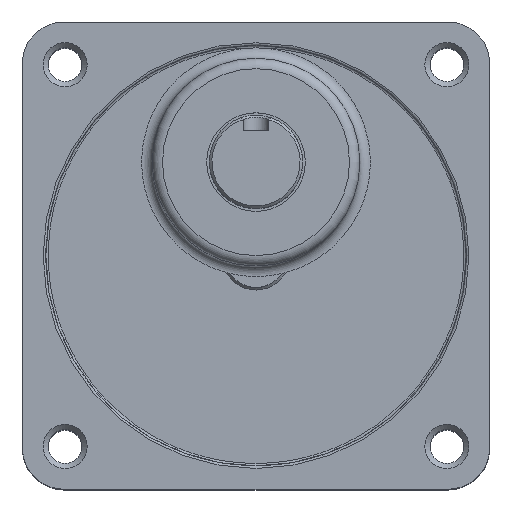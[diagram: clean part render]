
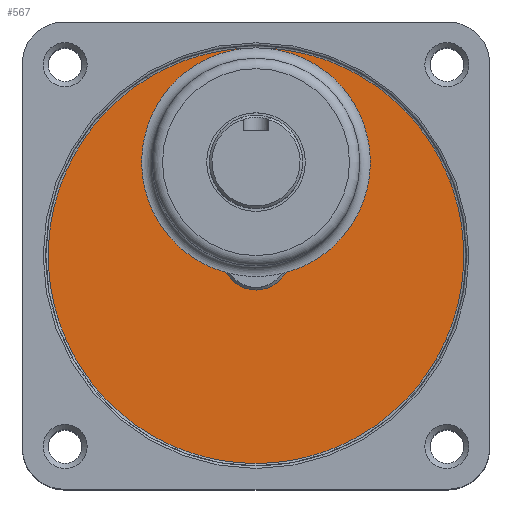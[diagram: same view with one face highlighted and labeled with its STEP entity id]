
A CAD part, top view. The second image highlights one B-rep face of the part: STEP entity #567.
In plain terms, the highlighted planar face has unit normal (0, 0, -1).
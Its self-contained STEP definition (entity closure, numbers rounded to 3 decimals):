
#516=CARTESIAN_POINT('',(-6.5,0.,3.5));
#517=VERTEX_POINT('',#516);
#518=CARTESIAN_POINT('',(0.0,0.0,3.5));
#519=DIRECTION('',(0.0,0.0,-1.0));
#520=DIRECTION('',(1.0,0.0,0.0));
#521=AXIS2_PLACEMENT_3D('',#518,#519,#520);
#522=CIRCLE('',#521,6.5);
#523=EDGE_CURVE('',#517,#517,#522,.T.);
#548=CARTESIAN_POINT('',(0.0,0.0,3.5));
#549=DIRECTION('',(0.0,0.0,1.0));
#550=DIRECTION('',(1.0,0.0,0.0));
#551=AXIS2_PLACEMENT_3D('',#548,#549,#550);
#552=PLANE('',#551);
#553=CARTESIAN_POINT('',(-41.5,0.,3.5));
#554=VERTEX_POINT('',#553);
#555=CARTESIAN_POINT('',(0.0,0.0,3.5));
#556=DIRECTION('',(0.0,0.0,-1.0));
#557=DIRECTION('',(1.0,0.0,0.0));
#558=AXIS2_PLACEMENT_3D('',#555,#556,#557);
#559=CIRCLE('',#558,41.5);
#560=EDGE_CURVE('',#554,#554,#559,.T.);
#561=ORIENTED_EDGE('',*,*,#560,.T.);
#562=EDGE_LOOP('',(#561));
#563=FACE_OUTER_BOUND('',#562,.T.);
#564=ORIENTED_EDGE('',*,*,#523,.F.);
#565=EDGE_LOOP('',(#564));
#566=FACE_BOUND('',#565,.T.);
#567=ADVANCED_FACE('',(#563,#566),#552,.F.);
